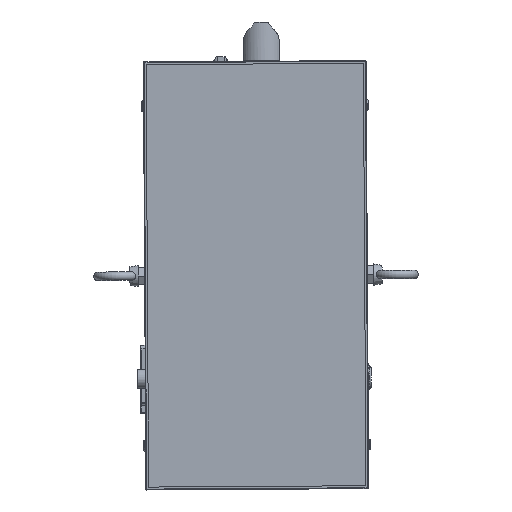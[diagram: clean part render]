
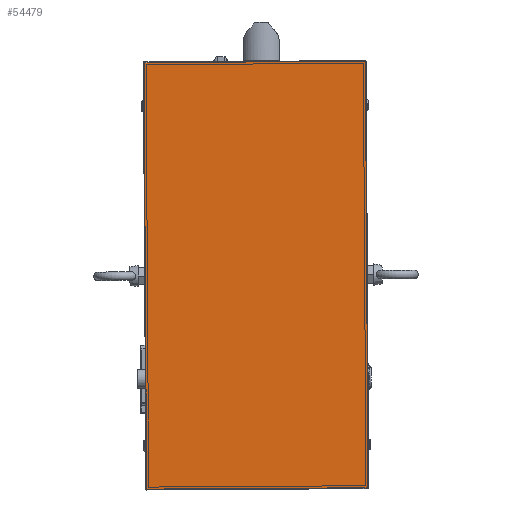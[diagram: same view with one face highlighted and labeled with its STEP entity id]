
A CAD part, top view. The second image highlights one B-rep face of the part: STEP entity #54479.
In plain terms, the highlighted planar face has unit normal (0, 0, 1).
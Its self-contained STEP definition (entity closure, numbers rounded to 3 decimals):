
#2956=PLANE('',#59297);
#8273=FACE_OUTER_BOUND('',#11458,.T.);
#11458=EDGE_LOOP('',(#46967,#46968,#46969,#46970));
#18022=LINE('',#100696,#21963);
#18023=LINE('',#100698,#21964);
#18024=LINE('',#100700,#21965);
#18025=LINE('',#100701,#21966);
#21963=VECTOR('',#71621,10.);
#21964=VECTOR('',#71622,10.);
#21965=VECTOR('',#71623,10.);
#21966=VECTOR('',#71624,10.);
#26895=VERTEX_POINT('',#100694);
#26896=VERTEX_POINT('',#100695);
#26897=VERTEX_POINT('',#100697);
#26898=VERTEX_POINT('',#100699);
#33880=EDGE_CURVE('',#26895,#26896,#18022,.T.);
#33881=EDGE_CURVE('',#26897,#26895,#18023,.T.);
#33882=EDGE_CURVE('',#26898,#26897,#18024,.T.);
#33883=EDGE_CURVE('',#26896,#26898,#18025,.T.);
#46967=ORIENTED_EDGE('',*,*,#33880,.F.);
#46968=ORIENTED_EDGE('',*,*,#33881,.F.);
#46969=ORIENTED_EDGE('',*,*,#33882,.F.);
#46970=ORIENTED_EDGE('',*,*,#33883,.F.);
#54479=ADVANCED_FACE('',(#8273),#2956,.T.);
#59297=AXIS2_PLACEMENT_3D('',#100693,#71619,#71620);
#71619=DIRECTION('center_axis',(0.,0.,
1.));
#71620=DIRECTION('ref_axis',(-0.006,1.,0.));
#71621=DIRECTION('',(0.006,-1.,0.));
#71622=DIRECTION('',(1.,0.006,0.));
#71623=DIRECTION('',(-0.006,1.,0.));
#71624=DIRECTION('',(-1.,-0.006,0.));
#100693=CARTESIAN_POINT('Origin',(-81.415,230.505,660.));
#100694=CARTESIAN_POINT('',(80.072,232.996,660.));
#100695=CARTESIAN_POINT('',(81.998,-80.999,660.));
#100696=CARTESIAN_POINT('',(80.082,231.496,660.));
#100697=CARTESIAN_POINT('',(-82.925,231.996,660.));
#100698=CARTESIAN_POINT('',(-41.425,232.25,660.));
#100699=CARTESIAN_POINT('',(-80.999,-81.998,660.));
#100700=CARTESIAN_POINT('',(-82.915,230.496,660.));
#100701=CARTESIAN_POINT('',(-39.499,-81.744,660.));
